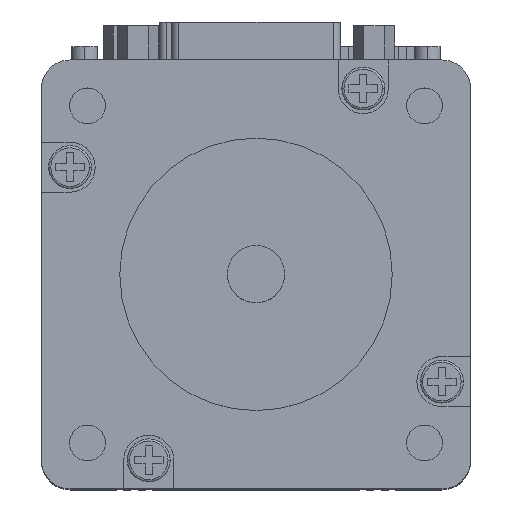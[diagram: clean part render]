
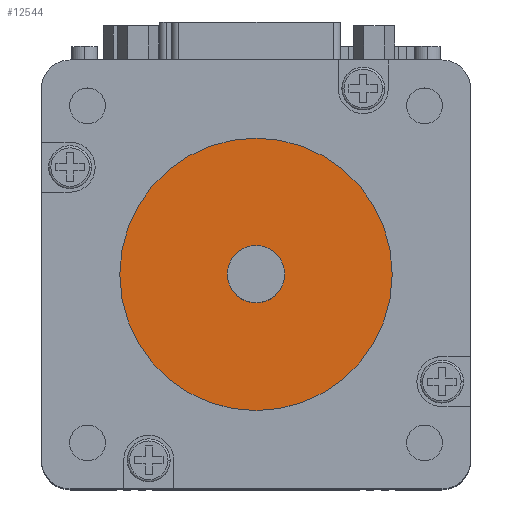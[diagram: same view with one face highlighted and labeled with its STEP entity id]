
A CAD part, top view. The second image highlights one B-rep face of the part: STEP entity #12544.
In plain terms, the highlighted planar face has unit normal (0, 0, 1).
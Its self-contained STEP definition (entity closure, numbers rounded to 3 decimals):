
#2356 = CARTESIAN_POINT ( 'NONE',  ( 19.05, 0., -19.4 ) ) ;
#2435 = CARTESIAN_POINT ( 'NONE',  ( -19.05, 0., -19.4 ) ) ;
#2460 = CARTESIAN_POINT ( 'NONE',  ( 4., 0., -19.4 ) ) ;
#2482 = DIRECTION ( 'NONE',  ( -1., 0., 0. ) ) ;
#2483 = DIRECTION ( 'NONE',  ( 0., 0., 1. ) ) ;
#2484 = AXIS2_PLACEMENT_3D ( 'NONE', #2501, #2483, #2482 ) ;
#2491 = CIRCLE ( 'NONE', #2484, 4. ) ;
#2492 = CARTESIAN_POINT ( 'NONE',  ( -4., 0., -19.4 ) ) ;
#2501 = CARTESIAN_POINT ( 'NONE',  ( 0., 0., -19.4 ) ) ;
#2510 = CIRCLE ( 'NONE', #2516, 19.05 ) ;
#2516 = AXIS2_PLACEMENT_3D ( 'NONE', #2565, #2564, #2563 ) ;
#2563 = DIRECTION ( 'NONE',  ( -1., 0., 0. ) ) ;
#2564 = DIRECTION ( 'NONE',  ( 0., 0., -1. ) ) ;
#2565 = CARTESIAN_POINT ( 'NONE',  ( 0., 0., -19.4 ) ) ;
#3408 = DIRECTION ( 'NONE',  ( -1., 0., 0. ) ) ;
#3409 = DIRECTION ( 'NONE',  ( 0., 0., 1. ) ) ;
#3410 = AXIS2_PLACEMENT_3D ( 'NONE', #3413, #3409, #3408 ) ;
#3413 = CARTESIAN_POINT ( 'NONE',  ( 0., 0., -19.4 ) ) ;
#3425 = CIRCLE ( 'NONE', #3410, 4. ) ;
#3433 = AXIS2_PLACEMENT_3D ( 'NONE', #3493, #3492, #3491 ) ;
#3438 = CIRCLE ( 'NONE', #3433, 19.05 ) ;
#3470 = PLANE ( 'NONE',  #3476 ) ;
#3476 = AXIS2_PLACEMENT_3D ( 'NONE', #3485, #3516, #3515 ) ;
#3485 = CARTESIAN_POINT ( 'NONE',  ( 0., 0., -19.4 ) ) ;
#3486 = FACE_BOUND ( 'NONE', #12525, .T. ) ;
#3491 = DIRECTION ( 'NONE',  ( -1., 0., 0. ) ) ;
#3492 = DIRECTION ( 'NONE',  ( 0., 0., -1. ) ) ;
#3493 = CARTESIAN_POINT ( 'NONE',  ( 0., 0., -19.4 ) ) ;
#3494 = FACE_OUTER_BOUND ( 'NONE', #12530, .T. ) ;
#3515 = DIRECTION ( 'NONE',  ( -1., 0., 0. ) ) ;
#3516 = DIRECTION ( 'NONE',  ( 0., 0., -1. ) ) ;
#11918 = VERTEX_POINT ( 'NONE', #2356 ) ;
#11981 = VERTEX_POINT ( 'NONE', #2435 ) ;
#11995 = VERTEX_POINT ( 'NONE', #2460 ) ;
#12005 = EDGE_CURVE ( 'NONE', #11995, #12006, #2491, .T. ) ;
#12006 = VERTEX_POINT ( 'NONE', #2492 ) ;
#12026 = EDGE_CURVE ( 'NONE', #11981, #11918, #2510, .T. ) ;
#12422 = ORIENTED_EDGE ( 'NONE', *, *, #12026, .F. ) ;
#12424 = ORIENTED_EDGE ( 'NONE', *, *, #12503, .F. ) ;
#12503 = EDGE_CURVE ( 'NONE', #12006, #11995, #3425, .T. ) ;
#12522 = ORIENTED_EDGE ( 'NONE', *, *, #12523, .F. ) ;
#12523 = EDGE_CURVE ( 'NONE', #11918, #11981, #3438, .T. ) ;
#12525 = EDGE_LOOP ( 'NONE', ( #12528, #12424 ) ) ;
#12528 = ORIENTED_EDGE ( 'NONE', *, *, #12005, .F. ) ;
#12530 = EDGE_LOOP ( 'NONE', ( #12522, #12422 ) ) ;
#12544 = ADVANCED_FACE ( 'NONE', ( #3486, #3494 ), #3470, .F. ) ;
